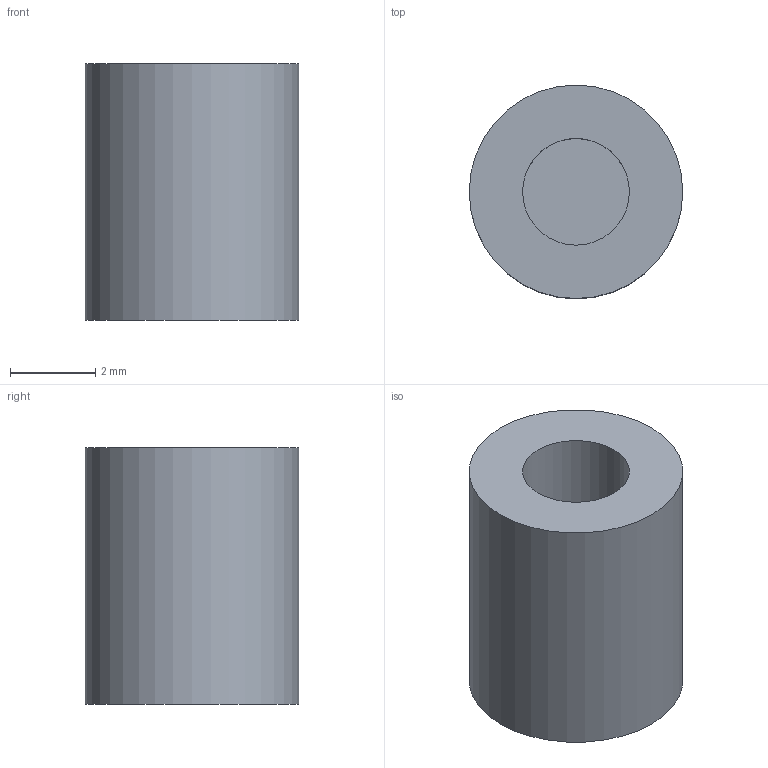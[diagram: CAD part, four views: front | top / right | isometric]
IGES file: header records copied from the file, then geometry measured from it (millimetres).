
Start section: Data from Parasolid IGES Translator 20.0.26, Copyright(c) 2006 Siemens P LM Software. All Rights Reserved.
Global section: file name: 9298859.igs; native system: By Siemens PLM Incorporated; preprocessor: XPlus GENERIC/IGES 20.0.26; author: Noname; organization: Noname; date: 20210825.154918; units: millimetre
Bounding box: 5 x 5 x 6 mm (x, y, z)
Surface area: 157.1 mm2 (no closed solid volume)
Topology: 0 solids, 0 shells, 5 faces, 12 edges, 8 vertices
Faces by surface type: extrusion 3, revolution 2
